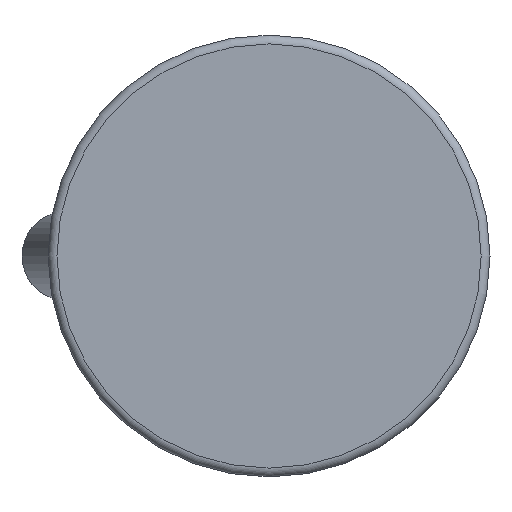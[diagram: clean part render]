
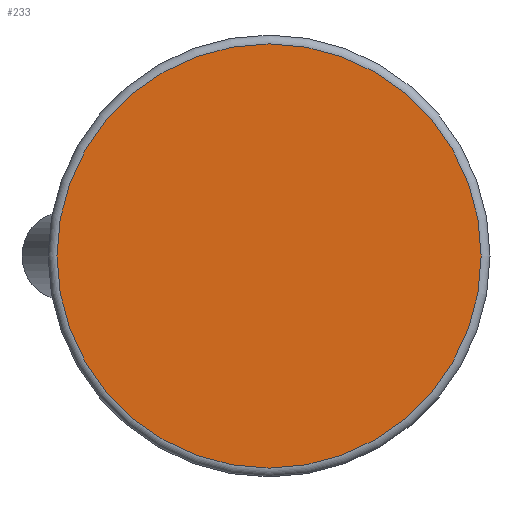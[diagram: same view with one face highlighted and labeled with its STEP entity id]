
A CAD part, front view. The second image highlights one B-rep face of the part: STEP entity #233.
In plain terms, the highlighted planar face has unit normal (0, -1, 0).
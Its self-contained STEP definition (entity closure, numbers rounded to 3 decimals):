
#233 = ADVANCED_FACE( '', ( #448 ), #449, .F. );
#448 = FACE_OUTER_BOUND( '', #648, .T. );
#449 = PLANE( '', #649 );
#648 = EDGE_LOOP( '', ( #1033 ) );
#649 = AXIS2_PLACEMENT_3D( '', #1034, #1035, #1036 );
#1033 = ORIENTED_EDGE( '', *, *, #1167, .T. );
#1034 = CARTESIAN_POINT( '', ( 24., 0., 0. ) );
#1035 = DIRECTION( '', ( 0., 1., 0. ) );
#1036 = DIRECTION( '', ( 0., 0., 1. ) );
#1167 = EDGE_CURVE( '', #1361, #1361, #1362, .T. );
#1361 = VERTEX_POINT( '', #1719 );
#1362 = CIRCLE( '', #1720, 24. );
#1719 = CARTESIAN_POINT( '', ( 0., 0., -24. ) );
#1720 = AXIS2_PLACEMENT_3D( '', #2043, #2044, #2045 );
#2043 = CARTESIAN_POINT( '', ( 0., 0., 0. ) );
#2044 = DIRECTION( '', ( 0., -1., 0. ) );
#2045 = DIRECTION( '', ( 0., 0., -1. ) );
